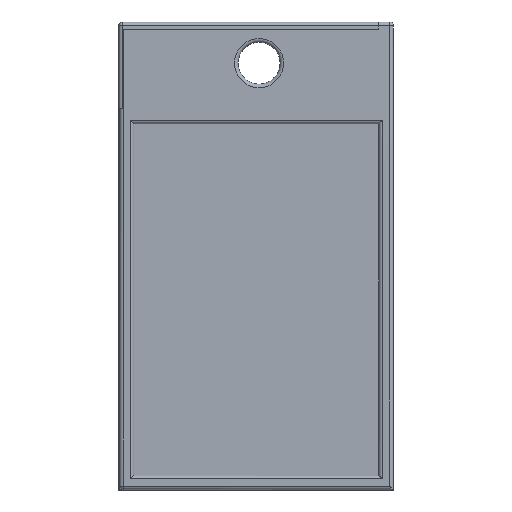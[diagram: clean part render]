
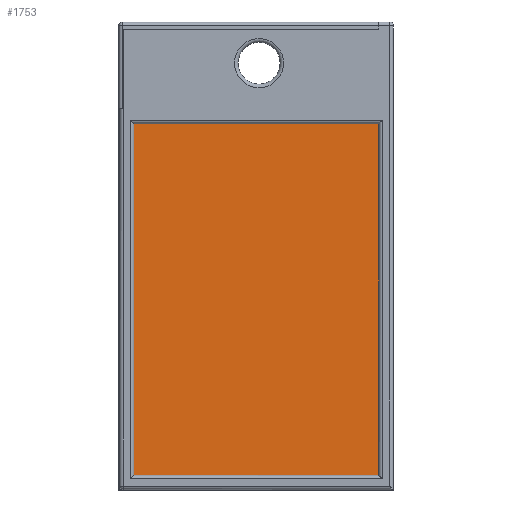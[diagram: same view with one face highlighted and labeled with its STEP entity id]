
A CAD part, front view. The second image highlights one B-rep face of the part: STEP entity #1753.
In plain terms, the highlighted planar face has unit normal (0, -1, 0).
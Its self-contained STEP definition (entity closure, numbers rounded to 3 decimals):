
#83=PLANE('',#1932);
#175=FACE_OUTER_BOUND('',#275,.T.);
#275=EDGE_LOOP('',(#1515,#1516,#1517,#1518,#1519,#1520,#1521,#1522,#1523,
#1524));
#363=LINE('',#2503,#538);
#368=LINE('',#2538,#543);
#426=LINE('',#2802,#601);
#431=LINE('',#2812,#606);
#494=LINE('',#2989,#669);
#496=LINE('',#2994,#671);
#499=LINE('',#2998,#674);
#507=LINE('',#3016,#682);
#508=LINE('',#3018,#683);
#509=LINE('',#3019,#684);
#538=VECTOR('',#1970,10.);
#543=VECTOR('',#1981,10.);
#601=VECTOR('',#2181,10.);
#606=VECTOR('',#2190,10.);
#669=VECTOR('',#2373,10.);
#671=VECTOR('',#2377,10.);
#674=VECTOR('',#2382,10.);
#682=VECTOR('',#2404,10.);
#683=VECTOR('',#2405,10.);
#684=VECTOR('',#2406,10.);
#726=VERTEX_POINT('',#2500);
#727=VERTEX_POINT('',#2502);
#733=VERTEX_POINT('',#2535);
#734=VERTEX_POINT('',#2537);
#804=VERTEX_POINT('',#2799);
#805=VERTEX_POINT('',#2801);
#862=VERTEX_POINT('',#2987);
#863=VERTEX_POINT('',#2991);
#867=VERTEX_POINT('',#3015);
#868=VERTEX_POINT('',#3017);
#887=EDGE_CURVE('',#727,#726,#363,.T.);
#895=EDGE_CURVE('',#734,#733,#368,.T.);
#998=EDGE_CURVE('',#805,#804,#426,.T.);
#1004=EDGE_CURVE('',#804,#727,#431,.T.);
#1093=EDGE_CURVE('',#733,#862,#494,.T.);
#1095=EDGE_CURVE('',#863,#862,#496,.T.);
#1098=EDGE_CURVE('',#726,#734,#499,.T.);
#1106=EDGE_CURVE('',#867,#863,#507,.T.);
#1107=EDGE_CURVE('',#868,#867,#508,.T.);
#1108=EDGE_CURVE('',#805,#868,#509,.T.);
#1515=ORIENTED_EDGE('',*,*,#1004,.T.);
#1516=ORIENTED_EDGE('',*,*,#887,.T.);
#1517=ORIENTED_EDGE('',*,*,#1098,.T.);
#1518=ORIENTED_EDGE('',*,*,#895,.T.);
#1519=ORIENTED_EDGE('',*,*,#1093,.T.);
#1520=ORIENTED_EDGE('',*,*,#1095,.F.);
#1521=ORIENTED_EDGE('',*,*,#1106,.F.);
#1522=ORIENTED_EDGE('',*,*,#1107,.F.);
#1523=ORIENTED_EDGE('',*,*,#1108,.F.);
#1524=ORIENTED_EDGE('',*,*,#998,.T.);
#1753=ADVANCED_FACE('',(#175),#83,.T.);
#1932=AXIS2_PLACEMENT_3D('',#3014,#2402,#2403);
#1970=DIRECTION('',(-1.,0.,0.));
#1981=DIRECTION('',(-1.,0.,0.));
#2181=DIRECTION('',(1.,0.,0.));
#2190=DIRECTION('',(0.,0.,1.));
#2373=DIRECTION('',(0.,0.,1.));
#2377=DIRECTION('',(1.,0.,0.));
#2382=DIRECTION('',(0.,0.,-1.));
#2402=DIRECTION('center_axis',(0.,-1.,0.));
#2403=DIRECTION('ref_axis',(0.,0.,-1.));
#2404=DIRECTION('',(0.,0.,1.));
#2405=DIRECTION('',(1.,0.,0.));
#2406=DIRECTION('',(0.,0.,1.));
#2500=CARTESIAN_POINT('',(70.873,3.403,-25.152));
#2502=CARTESIAN_POINT('',(73.5,3.403,-25.152));
#2503=CARTESIAN_POINT('',(-1.5,3.403,-25.152));
#2535=CARTESIAN_POINT('',(63.226,3.403,-30.));
#2537=CARTESIAN_POINT('',(70.873,3.403,-30.));
#2538=CARTESIAN_POINT('',(-5.225,3.403,-30.));
#2799=CARTESIAN_POINT('',(73.5,3.403,-236.926));
#2801=CARTESIAN_POINT('',(-77.5,3.403,-236.926));
#2802=CARTESIAN_POINT('',(-77.5,3.403,-236.926));
#2812=CARTESIAN_POINT('',(73.5,3.403,-67.072));
#2987=CARTESIAN_POINT('',(63.226,3.403,-25.042));
#2989=CARTESIAN_POINT('',(63.226,3.403,0.));
#2991=CARTESIAN_POINT('',(-70.,3.403,-25.042));
#2994=CARTESIAN_POINT('',(-77.5,3.403,-25.042));
#2998=CARTESIAN_POINT('',(70.873,3.403,0.));
#3014=CARTESIAN_POINT('Origin',(-77.5,3.403,-25.042));
#3015=CARTESIAN_POINT('',(-70.,3.403,-25.169));
#3016=CARTESIAN_POINT('',(-70.,3.403,-13.123));
#3017=CARTESIAN_POINT('',(-77.5,3.403,-25.169));
#3018=CARTESIAN_POINT('',(-77.75,3.403,-25.169));
#3019=CARTESIAN_POINT('',(-77.5,3.403,-236.926));
